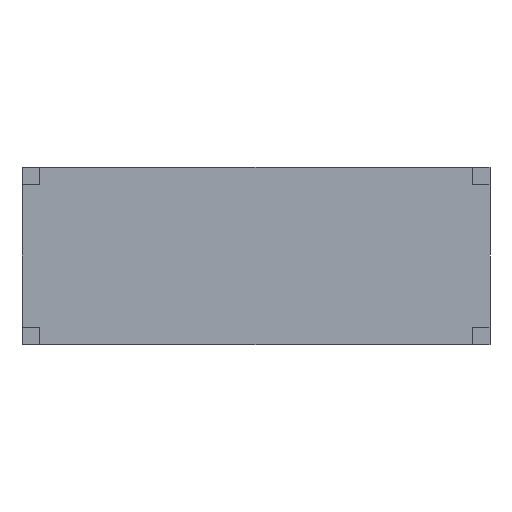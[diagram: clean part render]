
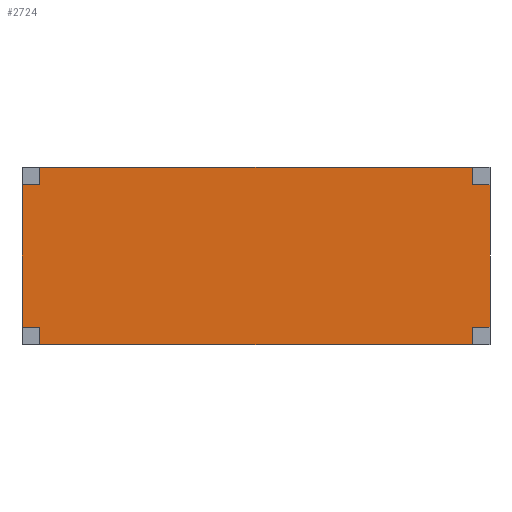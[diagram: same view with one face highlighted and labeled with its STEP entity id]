
A CAD part, front view. The second image highlights one B-rep face of the part: STEP entity #2724.
In plain terms, the highlighted planar face has unit normal (0, -1, 0).
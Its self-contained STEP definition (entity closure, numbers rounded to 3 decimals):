
#182 = CIRCLE ( 'NONE', #1038, 95. ) ;
#325 = ORIENTED_EDGE ( 'NONE', *, *, #3813, .F. ) ;
#327 = CARTESIAN_POINT ( 'NONE',  ( -1155., 0., 380. ) ) ;
#381 = DIRECTION ( 'NONE',  ( 0., -1., 0. ) ) ;
#382 = ORIENTED_EDGE ( 'NONE', *, *, #3528, .F. ) ;
#402 = CIRCLE ( 'NONE', #2909, 95. ) ;
#433 = CARTESIAN_POINT ( 'NONE',  ( 1155., 0., 475. ) ) ;
#436 = EDGE_CURVE ( 'NONE', #1247, #3290, #4219, .T. ) ;
#479 = EDGE_CURVE ( 'NONE', #1247, #2552, #2842, .T. ) ;
#552 = CARTESIAN_POINT ( 'NONE',  ( 1250., 0., 380. ) ) ;
#719 = LINE ( 'NONE', #783, #2159 ) ;
#783 = CARTESIAN_POINT ( 'NONE',  ( -1250., 0., 475. ) ) ;
#813 = VECTOR ( 'NONE', #1226, 1000. ) ;
#821 = CARTESIAN_POINT ( 'NONE',  ( -1250., 0., -380. ) ) ;
#822 = CARTESIAN_POINT ( 'NONE',  ( 1155., 0., -475. ) ) ;
#953 = CARTESIAN_POINT ( 'NONE',  ( 1250., 0., 475. ) ) ;
#972 = VERTEX_POINT ( 'NONE', #2570 ) ;
#1038 = AXIS2_PLACEMENT_3D ( 'NONE', #4139, #381, #2501 ) ;
#1104 = CARTESIAN_POINT ( 'NONE',  ( 1155., 0., 380. ) ) ;
#1145 = DIRECTION ( 'NONE',  ( 0., 0., -1. ) ) ;
#1200 = VERTEX_POINT ( 'NONE', #4032 ) ;
#1226 = DIRECTION ( 'NONE',  ( -1., 0., 0. ) ) ;
#1228 = DIRECTION ( 'NONE',  ( 0., 0., -1. ) ) ;
#1247 = VERTEX_POINT ( 'NONE', #821 ) ;
#1275 = AXIS2_PLACEMENT_3D ( 'NONE', #3167, #2135, #2881 ) ;
#1312 = DIRECTION ( 'NONE',  ( 0., -1., 0. ) ) ;
#1774 = DIRECTION ( 'NONE',  ( 0., 0., 1. ) ) ;
#1842 = CARTESIAN_POINT ( 'NONE',  ( -1250., 0., 475. ) ) ;
#2126 = ORIENTED_EDGE ( 'NONE', *, *, #3868, .T. ) ;
#2135 = DIRECTION ( 'NONE',  ( 0., -1., 0. ) ) ;
#2159 = VECTOR ( 'NONE', #3212, 1000. ) ;
#2211 = ORIENTED_EDGE ( 'NONE', *, *, #4044, .T. ) ;
#2298 = CARTESIAN_POINT ( 'NONE',  ( -1155., 0., -380. ) ) ;
#2299 = VERTEX_POINT ( 'NONE', #822 ) ;
#2345 = DIRECTION ( 'NONE',  ( 0., 0., -1. ) ) ;
#2466 = FACE_OUTER_BOUND ( 'NONE', #3182, .T. ) ;
#2501 = DIRECTION ( 'NONE',  ( 0., 0., -1. ) ) ;
#2502 = DIRECTION ( 'NONE',  ( 0., -1., 0. ) ) ;
#2552 = VERTEX_POINT ( 'NONE', #3359 ) ;
#2570 = CARTESIAN_POINT ( 'NONE',  ( -1155., 0., 475. ) ) ;
#2724 = ADVANCED_FACE ( 'NONE', ( #2466 ), #3562, .T. ) ;
#2791 = VERTEX_POINT ( 'NONE', #433 ) ;
#2842 = LINE ( 'NONE', #1842, #3756 ) ;
#2875 = AXIS2_PLACEMENT_3D ( 'NONE', #2298, #1312, #2345 ) ;
#2881 = DIRECTION ( 'NONE',  ( 0., 0., -1. ) ) ;
#2909 = AXIS2_PLACEMENT_3D ( 'NONE', #1104, #2502, #1145 ) ;
#2917 = VERTEX_POINT ( 'NONE', #552 ) ;
#2926 = ORIENTED_EDGE ( 'NONE', *, *, #4407, .T. ) ;
#3013 = ORIENTED_EDGE ( 'NONE', *, *, #436, .T. ) ;
#3114 = CIRCLE ( 'NONE', #3330, 95. ) ;
#3160 = ORIENTED_EDGE ( 'NONE', *, *, #479, .F. ) ;
#3167 = CARTESIAN_POINT ( 'NONE',  ( 0., 0., 0. ) ) ;
#3182 = EDGE_LOOP ( 'NONE', ( #4293, #2926, #382, #2126, #3160, #3013, #325, #2211 ) ) ;
#3212 = DIRECTION ( 'NONE',  ( 1., 0., 0. ) ) ;
#3245 = LINE ( 'NONE', #3930, #813 ) ;
#3290 = VERTEX_POINT ( 'NONE', #3642 ) ;
#3330 = AXIS2_PLACEMENT_3D ( 'NONE', #327, #4418, #3698 ) ;
#3345 = EDGE_CURVE ( 'NONE', #2917, #1200, #3953, .T. ) ;
#3359 = CARTESIAN_POINT ( 'NONE',  ( -1250., 0., 380. ) ) ;
#3528 = EDGE_CURVE ( 'NONE', #972, #2791, #719, .T. ) ;
#3562 = PLANE ( 'NONE',  #1275 ) ;
#3642 = CARTESIAN_POINT ( 'NONE',  ( -1155., 0., -475. ) ) ;
#3698 = DIRECTION ( 'NONE',  ( 0., 0., -1. ) ) ;
#3756 = VECTOR ( 'NONE', #1774, 1000. ) ;
#3813 = EDGE_CURVE ( 'NONE', #2299, #3290, #3245, .T. ) ;
#3868 = EDGE_CURVE ( 'NONE', #972, #2552, #3114, .T. ) ;
#3930 = CARTESIAN_POINT ( 'NONE',  ( -1250., 0., -475. ) ) ;
#3953 = LINE ( 'NONE', #953, #4237 ) ;
#4032 = CARTESIAN_POINT ( 'NONE',  ( 1250., 0., -380. ) ) ;
#4044 = EDGE_CURVE ( 'NONE', #2299, #1200, #182, .T. ) ;
#4139 = CARTESIAN_POINT ( 'NONE',  ( 1155., 0., -380. ) ) ;
#4219 = CIRCLE ( 'NONE', #2875, 95. ) ;
#4237 = VECTOR ( 'NONE', #1228, 1000. ) ;
#4293 = ORIENTED_EDGE ( 'NONE', *, *, #3345, .F. ) ;
#4407 = EDGE_CURVE ( 'NONE', #2917, #2791, #402, .T. ) ;
#4418 = DIRECTION ( 'NONE',  ( 0., -1., 0. ) ) ;
